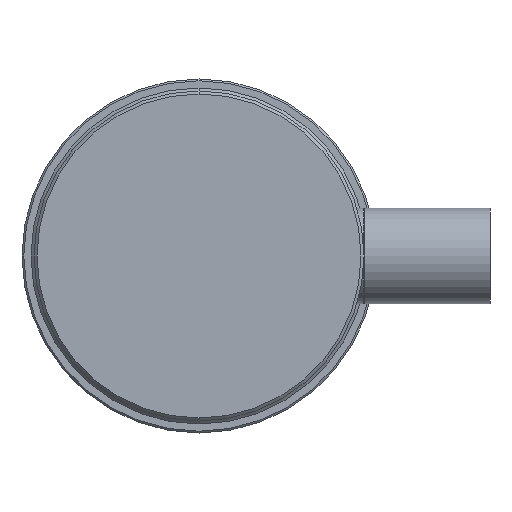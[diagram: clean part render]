
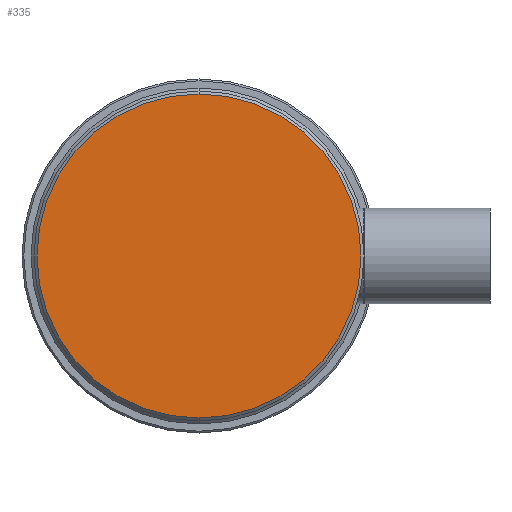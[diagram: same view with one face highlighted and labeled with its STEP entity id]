
A CAD part, left-side view. The second image highlights one B-rep face of the part: STEP entity #335.
In plain terms, the highlighted planar face has unit normal (-1, 0, 0).
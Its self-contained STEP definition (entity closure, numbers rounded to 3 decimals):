
#56 = CARTESIAN_POINT ( 'NONE',  ( 0., 0., 0. ) ) ;
#87 = EDGE_CURVE ( 'NONE', #1768, #1540, #2052, .T. ) ;
#247 = FACE_OUTER_BOUND ( 'NONE', #1484, .T. ) ;
#266 = EDGE_CURVE ( 'NONE', #1540, #1768, #1120, .T. ) ;
#335 = ADVANCED_FACE ( 'NONE', ( #247 ), #1250, .F. ) ;
#375 = AXIS2_PLACEMENT_3D ( 'NONE', #571, #1949, #726 ) ;
#531 = CARTESIAN_POINT ( 'NONE',  ( 0., 0., -27. ) ) ;
#542 = ORIENTED_EDGE ( 'NONE', *, *, #266, .T. ) ;
#571 = CARTESIAN_POINT ( 'NONE',  ( 0., 0., 0. ) ) ;
#726 = DIRECTION ( 'NONE',  ( 0., 0., -1. ) ) ;
#983 = DIRECTION ( 'NONE',  ( -1., 0., 0. ) ) ;
#1099 = DIRECTION ( 'NONE',  ( -1., 0., 0. ) ) ;
#1120 = CIRCLE ( 'NONE', #1226, 27. ) ;
#1226 = AXIS2_PLACEMENT_3D ( 'NONE', #56, #1099, #2143 ) ;
#1250 = PLANE ( 'NONE',  #375 ) ;
#1301 = ORIENTED_EDGE ( 'NONE', *, *, #87, .T. ) ;
#1370 = CARTESIAN_POINT ( 'NONE',  ( 0., 0., 27. ) ) ;
#1484 = EDGE_LOOP ( 'NONE', ( #542, #1301 ) ) ;
#1505 = AXIS2_PLACEMENT_3D ( 'NONE', #2197, #983, #2019 ) ;
#1540 = VERTEX_POINT ( 'NONE', #531 ) ;
#1768 = VERTEX_POINT ( 'NONE', #1370 ) ;
#1949 = DIRECTION ( 'NONE',  ( 1., 0., 0. ) ) ;
#2019 = DIRECTION ( 'NONE',  ( 0., 0., 1. ) ) ;
#2052 = CIRCLE ( 'NONE', #1505, 27. ) ;
#2143 = DIRECTION ( 'NONE',  ( 0., 0., 1. ) ) ;
#2197 = CARTESIAN_POINT ( 'NONE',  ( 0., 0., 0. ) ) ;
